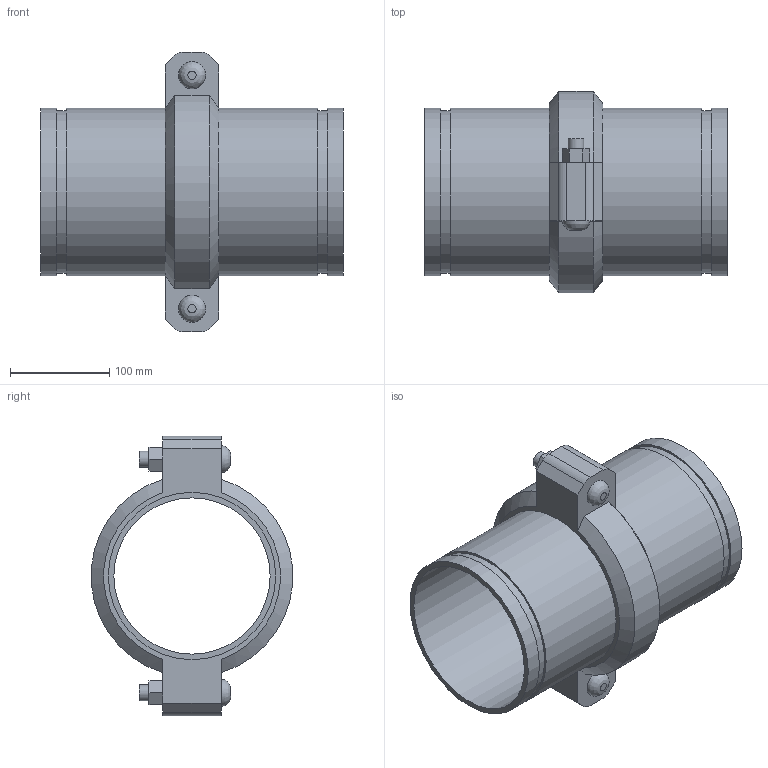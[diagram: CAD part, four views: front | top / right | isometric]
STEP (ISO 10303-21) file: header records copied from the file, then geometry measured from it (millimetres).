
FILE_DESCRIPTION(/* description */ ('VIC SS EXPANSION JOINT 1 COUPLING COMPRESSED STYLE 155P (OGS) (POTABLE WATER) ','CAx-IF Rec.Pracs.---Representation and Presentation of Product Manufacturing Information (PMI)---4.0---2014-10-13'),/* implementation_level */ '2;1');
FILE_NAME(/* name */ 'C:\Users\kkamble\AppData\Roaming\Autodesk\ApplicationPlugins\Victaulic.Temp\A829\Victaulic_SS_Expansion Joint_Compressed_1 Coupling_Style 155P (OGS)-Potable Water_1 Coup_Comp_6 (150).stp',/* time_stamp */ '2021-07-16T17:04:10+06:00',/* author */ ('kkamble'),/* organization */ ('Victaulic'),/* preprocessor_version */ 'ST-DEVELOPER v17.2',/* originating_system */ 'Autodesk Inventor 2019',/* authorisation */ '');
FILE_SCHEMA (('AP242_MANAGED_MODEL_BASED_3D_ENGINEERING_MIM_LF { 1 0 10303 442 1 1 4 }'));
Length unit declared in the file: inch
Products named in the file (3): 155P-06.0; Nipple-06.0; 075-06.0
Assembly tree (3 placements, depth 2):
  155P-06.0
    Nipple-06.0  x2
    075-06.0
Bounding box: 304.04 x 202.46 x 281.18 mm (x, y, z)
Volume: 1571200.8 mm3; surface area: 440671 mm2
Topology: 3 solids, 5 shells, 77 faces, 187 edges, 134 vertices
Faces by surface type: plane 46, cylinder 25, cone 4, bspline 2
Full cylindrical faces by diameter (mm): 15.875 x4, 17.424 x2, 157.15 x2, 163.957 x4, 168.275 x7
Entity records: 2189 total; most frequent: CARTESIAN_POINT 406, DIRECTION 351, ORIENTED_EDGE 314, EDGE_CURVE 157, AXIS2_PLACEMENT_3D 133, VERTEX_POINT 110, LINE 85, VECTOR 85
